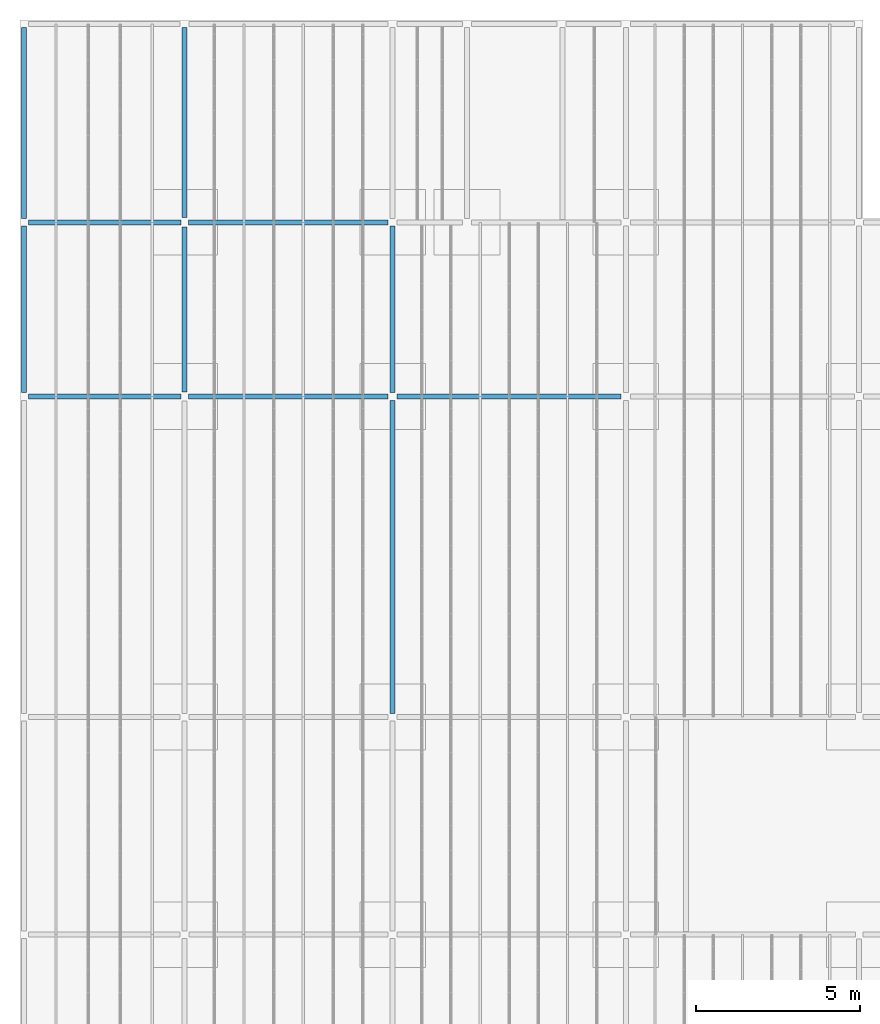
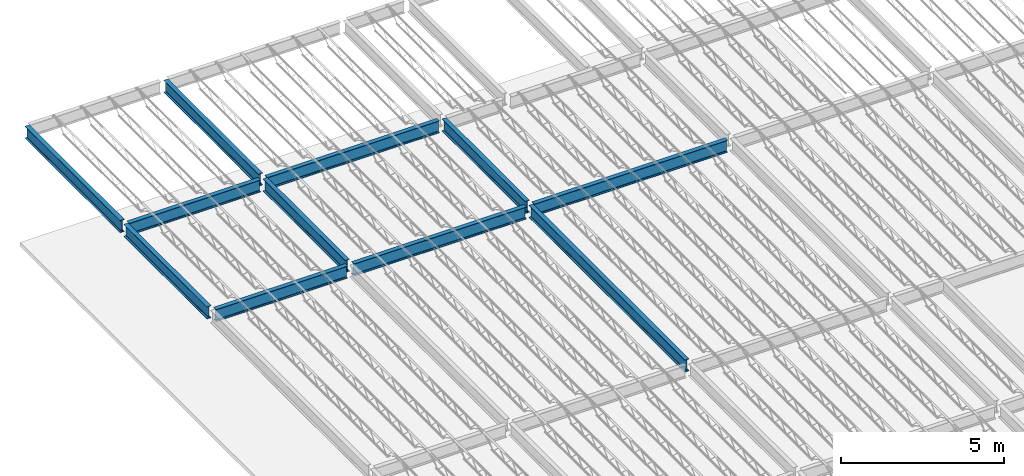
# One storey, part 9 of 75: 11 beams.
"""IFC2X3 building model written with IfcOpenShell, lengths in metres."""

from ifc_helpers import new_model, entity, si_unit, converted_unit, frame, frame_2d, origin, place, context, project, spatial, polyline, circle_curve, parameter, trimmed, segment, composite_curve, outline, extrude, material, element, save


model = new_model("IFC2X3")

# Units and contexts
model_context = context("Model", 3, precision=1e-09, world=origin())
plan_context = context("Plan", 3, precision=1e-09, world=origin())
ifc_project = project(units=[si_unit("LENGTHUNIT", "METRE"), si_unit("AREAUNIT", "SQUARE_METRE"), si_unit("VOLUMEUNIT", "CUBIC_METRE"), converted_unit("PLANEANGLEUNIT", "DEGREE", entity("IfcRatioMeasure", 0.01745329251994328), si_unit("PLANEANGLEUNIT", "RADIAN"), dimensions=[0, 0, 0, 0, 0, 0, 0]), si_unit("TIMEUNIT", "SECOND")], contexts=[model_context, plan_context])

# Site, building, storey
site_placement = place(None, origin())
site = spatial("IfcSite", under=ifc_project, at=site_placement, Name="Default", CompositionType="ELEMENT")
building_placement = place(site_placement, origin())
building = spatial("IfcBuilding", under=site, at=building_placement, CompositionType="ELEMENT")
storey_placement = place(building_placement, origin())
storey = spatial("IfcBuildingStorey", under=building, at=storey_placement, Name="First Floor", CompositionType="ELEMENT", Elevation=-3.531500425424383e-13)

# Beams
ifc_material = material(Name="Metal - Steel - 345 MPa")
beam_1_placement = place(storey_placement, frame((-51.90279412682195, 50.09000000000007, 4.404500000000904), z_axis=(0.0, 0.0, 1.0), x_axis=(0.0, -1.0, 0.0)))
element("IfcBeam", 1, at=beam_1_placement, inside=storey, material=ifc_material, Name="M_W-Wide Flange:W460X60:W460X60", ObjectType="M_W-Wide Flange:W460X60", context=model_context, shape_type="SweptSolid", body=[
    extrude(outline(composite_curve([segment(polyline([(-0.07649999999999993, -0.2142000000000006), (-0.07649999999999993, -0.2275000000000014)]), True, "CONTINUOUS"), segment(polyline([(-0.07649999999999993, -0.2275000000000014), (0.07649999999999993, -0.2275000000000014)]), True, "CONTINUOUS"), segment(polyline([(0.07649999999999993, -0.2275000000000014), (0.07649999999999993, -0.2142000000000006)]), True, "CONTINUOUS"), segment(polyline([(0.07649999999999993, -0.2142000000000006), (0.02170000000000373, -0.2142000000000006)]), True, "CONTINUOUS"), segment(trimmed(circle_curve(frame_2d((0.02170000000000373, -0.1965000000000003), x_axis=(1.0, 0.0)), 0.0177), [parameter(180.0)], [parameter(269.9999999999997)], True, "PARAMETER"), False, "CONTINUOUS"), segment(polyline([(0.003999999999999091, -0.1965000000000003), (0.003999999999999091, 0.1964999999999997)]), True, "CONTINUOUS"), segment(trimmed(circle_curve(frame_2d((0.02170000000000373, 0.1964999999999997), x_axis=(1.0, 0.0)), 0.0177), [parameter(90.00000000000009)], [parameter(179.9999999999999)], True, "PARAMETER"), False, "CONTINUOUS"), segment(polyline([(0.02170000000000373, 0.2141999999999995), (0.07649999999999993, 0.2141999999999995)]), True, "CONTINUOUS"), segment(polyline([(0.07649999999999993, 0.2141999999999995), (0.07649999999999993, 0.2274999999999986)]), True, "CONTINUOUS"), segment(polyline([(0.07649999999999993, 0.2274999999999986), (-0.07649999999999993, 0.2274999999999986)]), True, "CONTINUOUS"), segment(polyline([(-0.07649999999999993, 0.2274999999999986), (-0.07649999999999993, 0.2141999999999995)]), True, "CONTINUOUS"), segment(polyline([(-0.07649999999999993, 0.2141999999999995), (-0.02170000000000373, 0.2141999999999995)]), True, "CONTINUOUS"), segment(trimmed(circle_curve(frame_2d((-0.02169999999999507, 0.1964999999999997), x_axis=(1.0, 0.0)), 0.0177), [parameter(359.9999999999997)], [parameter(89.99999999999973)], True, "PARAMETER"), False, "CONTINUOUS"), segment(polyline([(-0.003999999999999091, 0.1964999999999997), (-0.003999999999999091, -0.1965000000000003)]), True, "CONTINUOUS"), segment(trimmed(circle_curve(frame_2d((-0.02169999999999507, -0.1965000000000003), x_axis=(1.0, 0.0)), 0.0177), [parameter(269.9999999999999)], [parameter(0.0)], True, "PARAMETER"), False, "CONTINUOUS"), segment(polyline([(-0.02170000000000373, -0.2142000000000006), (-0.07649999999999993, -0.2142000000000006)]), True, "CONTINUOUS")], self_intersect=False)), frame((0.0, 0.1439941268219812, -0.2275000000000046), z_axis=(0.0, -1.0, 0.0), x_axis=(1.0, 0.0, 0.0)), (0.0, 0.0, -1.0), 4.644100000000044),
])
beam_2_placement = place(storey_placement, frame((-47.00215974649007, 50.09000000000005, 4.404500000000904), z_axis=(0.0, 0.0, 1.0), x_axis=(0.0, -1.0, 0.0)))
element("IfcBeam", 2, at=beam_2_placement, inside=storey, material=ifc_material, Name="M_W-Wide Flange:W460X60:W460X60", ObjectType="M_W-Wide Flange:W460X60", context=model_context, shape_type="SweptSolid", body=[
    extrude(outline(composite_curve([segment(polyline([(-0.07650000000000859, -0.2142000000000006), (-0.07650000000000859, -0.2275000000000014)]), True, "CONTINUOUS"), segment(polyline([(-0.07650000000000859, -0.2275000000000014), (0.07649999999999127, -0.2275000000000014)]), True, "CONTINUOUS"), segment(polyline([(0.07649999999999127, -0.2275000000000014), (0.07649999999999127, -0.2142000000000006)]), True, "CONTINUOUS"), segment(polyline([(0.07649999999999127, -0.2142000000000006), (0.02169999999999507, -0.2142000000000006)]), True, "CONTINUOUS"), segment(trimmed(circle_curve(frame_2d((0.02169999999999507, -0.1965000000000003), x_axis=(0.0, -1.0)), 0.0177), [parameter(269.9999999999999)], [parameter(359.9999999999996)], True, "PARAMETER"), False, "CONTINUOUS"), segment(polyline([(0.003999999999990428, -0.1965000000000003), (0.003999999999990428, 0.1964999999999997)]), True, "CONTINUOUS"), segment(trimmed(circle_curve(frame_2d((0.02169999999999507, 0.1964999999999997), x_axis=(-1.0, 0.0)), 0.0177), [parameter(269.9999999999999)], [parameter(359.9999999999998)], True, "PARAMETER"), False, "CONTINUOUS"), segment(polyline([(0.02169999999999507, 0.2141999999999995), (0.07649999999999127, 0.2141999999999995)]), True, "CONTINUOUS"), segment(polyline([(0.07649999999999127, 0.2141999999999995), (0.07649999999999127, 0.2274999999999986)]), True, "CONTINUOUS"), segment(polyline([(0.07649999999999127, 0.2274999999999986), (-0.07650000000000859, 0.2274999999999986)]), True, "CONTINUOUS"), segment(polyline([(-0.07650000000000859, 0.2274999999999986), (-0.07650000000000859, 0.2141999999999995)]), True, "CONTINUOUS"), segment(polyline([(-0.07650000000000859, 0.2141999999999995), (-0.02170000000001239, 0.2141999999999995)]), True, "CONTINUOUS"), segment(trimmed(circle_curve(frame_2d((-0.02170000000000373, 0.1964999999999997), x_axis=(0.0, 1.0)), 0.0177), [parameter(269.9999999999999)], [parameter(359.9999999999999)], True, "PARAMETER"), False, "CONTINUOUS"), segment(polyline([(-0.004000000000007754, 0.1964999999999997), (-0.004000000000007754, -0.1965000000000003)]), True, "CONTINUOUS"), segment(trimmed(circle_curve(frame_2d((-0.02170000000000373, -0.1965000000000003), x_axis=(1.0, 0.0)), 0.0177), [parameter(269.9999999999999)], [parameter(5.088887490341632e-14)], True, "PARAMETER"), False, "CONTINUOUS"), segment(polyline([(-0.02170000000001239, -0.2142000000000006), (-0.07650000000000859, -0.2142000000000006)]), True, "CONTINUOUS")], self_intersect=False)), frame((0.0, 0.1168597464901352, -0.2275000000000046), z_axis=(0.0, -1.0, 0.0), x_axis=(1.0, 0.0, 0.0)), (0.0, 0.0, -1.0), 6.084099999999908),
])
beam_3_placement = place(storey_placement, frame((-47.00215974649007, 44.78000000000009, 4.404500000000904), z_axis=(0.0, 0.0, 1.0), x_axis=(0.0, -1.0, 0.0)))
element("IfcBeam", 3, at=beam_3_placement, inside=storey, material=ifc_material, Name="M_W-Wide Flange:W460X60:W460X60", ObjectType="M_W-Wide Flange:W460X60", context=model_context, shape_type="SweptSolid", body=[
    extrude(outline(composite_curve([segment(polyline([(-0.07649999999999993, -0.2142000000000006), (-0.07649999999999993, -0.2275000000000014)]), True, "CONTINUOUS"), segment(polyline([(-0.07649999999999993, -0.2275000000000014), (0.07649999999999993, -0.2275000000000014)]), True, "CONTINUOUS"), segment(polyline([(0.07649999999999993, -0.2275000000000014), (0.07649999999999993, -0.2142000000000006)]), True, "CONTINUOUS"), segment(polyline([(0.07649999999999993, -0.2142000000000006), (0.02170000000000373, -0.2142000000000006)]), True, "CONTINUOUS"), segment(trimmed(circle_curve(frame_2d((0.02170000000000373, -0.1965000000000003), x_axis=(0.0, -1.0)), 0.0177), [parameter(269.9999999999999)], [parameter(359.9999999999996)], True, "PARAMETER"), False, "CONTINUOUS"), segment(polyline([(0.003999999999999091, -0.1965000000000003), (0.003999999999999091, 0.1964999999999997)]), True, "CONTINUOUS"), segment(trimmed(circle_curve(frame_2d((0.02170000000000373, 0.1964999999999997), x_axis=(-1.0, 0.0)), 0.0177), [parameter(269.9999999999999)], [parameter(359.9999999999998)], True, "PARAMETER"), False, "CONTINUOUS"), segment(polyline([(0.02170000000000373, 0.2141999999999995), (0.07649999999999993, 0.2141999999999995)]), True, "CONTINUOUS"), segment(polyline([(0.07649999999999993, 0.2141999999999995), (0.07649999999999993, 0.2274999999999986)]), True, "CONTINUOUS"), segment(polyline([(0.07649999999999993, 0.2274999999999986), (-0.07649999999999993, 0.2274999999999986)]), True, "CONTINUOUS"), segment(polyline([(-0.07649999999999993, 0.2274999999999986), (-0.07649999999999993, 0.2141999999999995)]), True, "CONTINUOUS"), segment(polyline([(-0.07649999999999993, 0.2141999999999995), (-0.02170000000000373, 0.2141999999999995)]), True, "CONTINUOUS"), segment(trimmed(circle_curve(frame_2d((-0.02169999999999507, 0.1964999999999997), x_axis=(0.0, 1.0)), 0.0177), [parameter(269.9999999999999)], [parameter(359.9999999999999)], True, "PARAMETER"), False, "CONTINUOUS"), segment(polyline([(-0.003999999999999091, 0.1964999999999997), (-0.003999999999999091, -0.1965000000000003)]), True, "CONTINUOUS"), segment(trimmed(circle_curve(frame_2d((-0.02169999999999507, -0.1965000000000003), x_axis=(1.0, 0.0)), 0.0177), [parameter(269.9999999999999)], [parameter(5.088887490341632e-14)], True, "PARAMETER"), False, "CONTINUOUS"), segment(polyline([(-0.02170000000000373, -0.2142000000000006), (-0.07649999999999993, -0.2142000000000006)]), True, "CONTINUOUS")], self_intersect=False)), frame((0.0, 0.1168597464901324, -0.2275000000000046), z_axis=(0.0, -1.0, 0.0), x_axis=(1.0, 0.0, 0.0)), (0.0, 0.0, -1.0), 6.084099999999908),
])
beam_4_placement = place(storey_placement, frame((-51.90279412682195, 44.7800000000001, 4.404500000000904), z_axis=(0.0, 0.0, 1.0), x_axis=(0.0, -1.0, 0.0)))
element("IfcBeam", 4, at=beam_4_placement, inside=storey, material=ifc_material, Name="M_W-Wide Flange:W460X60:W460X60", ObjectType="M_W-Wide Flange:W460X60", context=model_context, shape_type="SweptSolid", body=[
    extrude(outline(composite_curve([segment(polyline([(-0.07649999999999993, -0.2142000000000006), (-0.07649999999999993, -0.2275000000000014)]), True, "CONTINUOUS"), segment(polyline([(-0.07649999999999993, -0.2275000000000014), (0.07649999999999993, -0.2275000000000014)]), True, "CONTINUOUS"), segment(polyline([(0.07649999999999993, -0.2275000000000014), (0.07649999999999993, -0.2142000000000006)]), True, "CONTINUOUS"), segment(polyline([(0.07649999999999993, -0.2142000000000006), (0.02170000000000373, -0.2142000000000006)]), True, "CONTINUOUS"), segment(trimmed(circle_curve(frame_2d((0.02170000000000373, -0.1965000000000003), x_axis=(1.0, 0.0)), 0.0177), [parameter(180.0)], [parameter(269.9999999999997)], True, "PARAMETER"), False, "CONTINUOUS"), segment(polyline([(0.003999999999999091, -0.1965000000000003), (0.003999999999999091, 0.1964999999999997)]), True, "CONTINUOUS"), segment(trimmed(circle_curve(frame_2d((0.02170000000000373, 0.1964999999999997), x_axis=(1.0, 0.0)), 0.0177), [parameter(90.00000000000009)], [parameter(179.9999999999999)], True, "PARAMETER"), False, "CONTINUOUS"), segment(polyline([(0.02170000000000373, 0.2141999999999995), (0.07649999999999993, 0.2141999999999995)]), True, "CONTINUOUS"), segment(polyline([(0.07649999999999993, 0.2141999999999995), (0.07649999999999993, 0.2274999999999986)]), True, "CONTINUOUS"), segment(polyline([(0.07649999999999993, 0.2274999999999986), (-0.07649999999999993, 0.2274999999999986)]), True, "CONTINUOUS"), segment(polyline([(-0.07649999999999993, 0.2274999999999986), (-0.07649999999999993, 0.2141999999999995)]), True, "CONTINUOUS"), segment(polyline([(-0.07649999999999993, 0.2141999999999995), (-0.02170000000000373, 0.2141999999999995)]), True, "CONTINUOUS"), segment(trimmed(circle_curve(frame_2d((-0.02169999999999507, 0.1964999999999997), x_axis=(1.0, 0.0)), 0.0177), [parameter(359.9999999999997)], [parameter(89.99999999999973)], True, "PARAMETER"), False, "CONTINUOUS"), segment(polyline([(-0.003999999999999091, 0.1964999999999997), (-0.003999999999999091, -0.1965000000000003)]), True, "CONTINUOUS"), segment(trimmed(circle_curve(frame_2d((-0.02169999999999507, -0.1965000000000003), x_axis=(1.0, 0.0)), 0.0177), [parameter(269.9999999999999)], [parameter(0.0)], True, "PARAMETER"), False, "CONTINUOUS"), segment(polyline([(-0.02170000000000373, -0.2142000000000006), (-0.07649999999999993, -0.2142000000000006)]), True, "CONTINUOUS")], self_intersect=False)), frame((0.0, 0.143994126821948, -0.2275000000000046), z_axis=(0.0, -1.0, 0.0), x_axis=(1.0, 0.0, 0.0)), (0.0, 0.0, -1.0), 4.644100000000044),
])
beam_5_placement = place(storey_placement, frame((-40.66192591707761, 44.78000000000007, 4.404500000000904), z_axis=(0.0, 0.0, 1.0), x_axis=(0.0, -1.0, 0.0)))
element("IfcBeam", 5, at=beam_5_placement, inside=storey, material=ifc_material, Name="M_W-Wide Flange:W460X60:W460X60", ObjectType="M_W-Wide Flange:W460X60", context=model_context, shape_type="SweptSolid", body=[
    extrude(outline(composite_curve([segment(polyline([(-0.07649999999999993, -0.2142000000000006), (-0.07649999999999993, -0.2275000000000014)]), True, "CONTINUOUS"), segment(polyline([(-0.07649999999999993, -0.2275000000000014), (0.07649999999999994, -0.2275000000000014)]), True, "CONTINUOUS"), segment(polyline([(0.07649999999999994, -0.2275000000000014), (0.07649999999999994, -0.2142000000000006)]), True, "CONTINUOUS"), segment(polyline([(0.07649999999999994, -0.2142000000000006), (0.02170000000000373, -0.2142000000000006)]), True, "CONTINUOUS"), segment(trimmed(circle_curve(frame_2d((0.02169999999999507, -0.1965000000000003), x_axis=(0.0, -1.0)), 0.0177), [parameter(269.9999999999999)], [parameter(359.9999999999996)], True, "PARAMETER"), False, "CONTINUOUS"), segment(polyline([(0.00399999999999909, -0.1965000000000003), (0.00399999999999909, 0.1964999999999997)]), True, "CONTINUOUS"), segment(trimmed(circle_curve(frame_2d((0.02169999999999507, 0.1964999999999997), x_axis=(-1.0, 0.0)), 0.0177), [parameter(269.9999999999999)], [parameter(359.9999999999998)], True, "PARAMETER"), False, "CONTINUOUS"), segment(polyline([(0.02170000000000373, 0.2141999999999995), (0.07649999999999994, 0.2141999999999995)]), True, "CONTINUOUS"), segment(polyline([(0.07649999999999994, 0.2141999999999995), (0.07649999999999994, 0.2274999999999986)]), True, "CONTINUOUS"), segment(polyline([(0.07649999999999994, 0.2274999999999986), (-0.07649999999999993, 0.2274999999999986)]), True, "CONTINUOUS"), segment(polyline([(-0.07649999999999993, 0.2274999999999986), (-0.07649999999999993, 0.2141999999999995)]), True, "CONTINUOUS"), segment(polyline([(-0.07649999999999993, 0.2141999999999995), (-0.02170000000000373, 0.2141999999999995)]), True, "CONTINUOUS"), segment(trimmed(circle_curve(frame_2d((-0.02170000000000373, 0.1964999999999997), x_axis=(0.0, 1.0)), 0.0177), [parameter(269.9999999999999)], [parameter(359.9999999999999)], True, "PARAMETER"), False, "CONTINUOUS"), segment(polyline([(-0.003999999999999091, 0.1964999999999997), (-0.003999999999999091, -0.1965000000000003)]), True, "CONTINUOUS"), segment(trimmed(circle_curve(frame_2d((-0.02170000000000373, -0.1965000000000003), x_axis=(1.0, 0.0)), 0.0177), [parameter(269.9999999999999)], [parameter(5.088887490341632e-14)], True, "PARAMETER"), False, "CONTINUOUS"), segment(polyline([(-0.02170000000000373, -0.2142000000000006), (-0.07649999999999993, -0.2142000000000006)]), True, "CONTINUOUS")], self_intersect=False)), frame((0.0, 0.1431259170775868, -0.2275000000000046), z_axis=(0.0, -1.0, 0.0), x_axis=(1.0, 0.0, 0.0)), (0.0, 0.0, -1.0), 6.827600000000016),
])
beam_6_placement = place(storey_placement, frame((-40.66000000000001, 44.78140165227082, 4.46800000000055), z_axis=(0.0, 0.0, 1.0), x_axis=(-1.0, 0.0, 0.0)))
element("IfcBeam", 6, at=beam_6_placement, inside=storey, material=ifc_material, Name="M_W-Wide Flange:W460X60:W460X60", ObjectType="M_W-Wide Flange:W460X60", context=model_context, shape_type="SweptSolid", body=[
    extrude(outline(composite_curve([segment(polyline([(0.2141999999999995, -0.0765000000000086), (0.2275000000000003, -0.0765000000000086)]), True, "CONTINUOUS"), segment(polyline([(0.2275000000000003, -0.0765000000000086), (0.2275000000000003, 0.07649999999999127)]), True, "CONTINUOUS"), segment(polyline([(0.2275000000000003, 0.07649999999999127), (0.2141999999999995, 0.07649999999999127)]), True, "CONTINUOUS"), segment(polyline([(0.2141999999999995, 0.07649999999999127), (0.2141999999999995, 0.02169999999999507)]), True, "CONTINUOUS"), segment(trimmed(circle_curve(frame_2d((0.1964999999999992, 0.02169999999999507), x_axis=(1.0, 0.0)), 0.0177), [parameter(269.9999999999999)], [parameter(359.9999999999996)], True, "PARAMETER"), False, "CONTINUOUS"), segment(polyline([(0.1964999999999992, 0.003999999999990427), (-0.1965000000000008, 0.003999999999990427)]), True, "CONTINUOUS"), segment(trimmed(circle_curve(frame_2d((-0.1965000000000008, 0.02169999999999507), x_axis=(0.0, -1.0)), 0.0177), [parameter(269.9999999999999)], [parameter(359.9999999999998)], True, "PARAMETER"), False, "CONTINUOUS"), segment(polyline([(-0.2142000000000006, 0.02169999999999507), (-0.2142000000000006, 0.07649999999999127)]), True, "CONTINUOUS"), segment(polyline([(-0.2142000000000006, 0.07649999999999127), (-0.2274999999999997, 0.07649999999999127)]), True, "CONTINUOUS"), segment(polyline([(-0.2274999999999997, 0.07649999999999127), (-0.2274999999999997, -0.0765000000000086)]), True, "CONTINUOUS"), segment(polyline([(-0.2274999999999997, -0.0765000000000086), (-0.2142000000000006, -0.0765000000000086)]), True, "CONTINUOUS"), segment(polyline([(-0.2142000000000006, -0.0765000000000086), (-0.2142000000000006, -0.02170000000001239)]), True, "CONTINUOUS"), segment(trimmed(circle_curve(frame_2d((-0.1965000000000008, -0.02170000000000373), x_axis=(-1.0, 0.0)), 0.0177), [parameter(269.9999999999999)], [parameter(359.9999999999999)], True, "PARAMETER"), False, "CONTINUOUS"), segment(polyline([(-0.1965000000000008, -0.004000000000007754), (0.1964999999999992, -0.004000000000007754)]), True, "CONTINUOUS"), segment(trimmed(circle_curve(frame_2d((0.1964999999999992, -0.02170000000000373), x_axis=(0.0, 1.0)), 0.0177), [parameter(269.9999999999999)], [parameter(5.088887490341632e-14)], True, "PARAMETER"), False, "CONTINUOUS"), segment(polyline([(0.2141999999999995, -0.02170000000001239), (0.2141999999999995, -0.0765000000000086)]), True, "CONTINUOUS")], self_intersect=False)), frame((0.0, 9.65670165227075, -0.2275000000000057), z_axis=(0.0, -1.0, 0.0), x_axis=(0.0, 0.0, -1.0)), (0.0, 0.0, 1.0), 9.540600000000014),
])
beam_7_placement = place(storey_placement, frame((-40.66, 50.09257849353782, 4.468000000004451), z_axis=(0.0, 0.0, 1.0), x_axis=(-1.0, 0.0, 0.0)))
element("IfcBeam", 7, at=beam_7_placement, inside=storey, material=ifc_material, Name="M_W-Wide Flange:W460X60:W460X60", ObjectType="M_W-Wide Flange:W460X60", context=model_context, shape_type="SweptSolid", body=[
    extrude(outline(composite_curve([segment(polyline([(0.2142000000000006, -0.07649999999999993), (0.2275000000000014, -0.07649999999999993)]), True, "CONTINUOUS"), segment(polyline([(0.2275000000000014, -0.07649999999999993), (0.2275000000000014, 0.07649999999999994)]), True, "CONTINUOUS"), segment(polyline([(0.2275000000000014, 0.07649999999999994), (0.2142000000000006, 0.07649999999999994)]), True, "CONTINUOUS"), segment(polyline([(0.2142000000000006, 0.07649999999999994), (0.2142000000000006, 0.02170000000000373)]), True, "CONTINUOUS"), segment(trimmed(circle_curve(frame_2d((0.1965000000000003, 0.02170000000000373), x_axis=(1.0, 0.0)), 0.0177), [parameter(269.9999999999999)], [parameter(359.9999999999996)], True, "PARAMETER"), False, "CONTINUOUS"), segment(polyline([(0.1965000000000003, 0.003999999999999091), (-0.1964999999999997, 0.003999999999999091)]), True, "CONTINUOUS"), segment(trimmed(circle_curve(frame_2d((-0.1964999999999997, 0.02170000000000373), x_axis=(0.0, -1.0)), 0.0177), [parameter(269.9999999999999)], [parameter(359.9999999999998)], True, "PARAMETER"), False, "CONTINUOUS"), segment(polyline([(-0.2141999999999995, 0.02170000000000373), (-0.2141999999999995, 0.07649999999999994)]), True, "CONTINUOUS"), segment(polyline([(-0.2141999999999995, 0.07649999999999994), (-0.2274999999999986, 0.07649999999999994)]), True, "CONTINUOUS"), segment(polyline([(-0.2274999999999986, 0.07649999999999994), (-0.2274999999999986, -0.07649999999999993)]), True, "CONTINUOUS"), segment(polyline([(-0.2274999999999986, -0.07649999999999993), (-0.2141999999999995, -0.07649999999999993)]), True, "CONTINUOUS"), segment(polyline([(-0.2141999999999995, -0.07649999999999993), (-0.2141999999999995, -0.02170000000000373)]), True, "CONTINUOUS"), segment(trimmed(circle_curve(frame_2d((-0.1964999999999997, -0.02169999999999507), x_axis=(-1.0, 0.0)), 0.0177), [parameter(269.9999999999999)], [parameter(359.9999999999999)], True, "PARAMETER"), False, "CONTINUOUS"), segment(polyline([(-0.1964999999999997, -0.00399999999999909), (0.1965000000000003, -0.00399999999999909)]), True, "CONTINUOUS"), segment(trimmed(circle_curve(frame_2d((0.1965000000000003, -0.02169999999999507), x_axis=(0.0, 1.0)), 0.0177), [parameter(269.9999999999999)], [parameter(5.088887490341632e-14)], True, "PARAMETER"), False, "CONTINUOUS"), segment(polyline([(0.2142000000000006, -0.02170000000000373), (0.2142000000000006, -0.07649999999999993)]), True, "CONTINUOUS")], self_intersect=False)), frame((0.0, 5.197878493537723, -0.2275000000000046), z_axis=(0.0, -1.0, 0.0), x_axis=(0.0, 0.0, -1.0)), (0.0, 0.0, 1.0), 5.080599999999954),
])
beam_8_placement = place(storey_placement, frame((-47.0, 44.77742150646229, 4.468000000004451)))
element("IfcBeam", 8, at=beam_8_placement, inside=storey, material=ifc_material, Name="M_W-Wide Flange:W460X60:W460X60", ObjectType="M_W-Wide Flange:W460X60", context=model_context, shape_type="SweptSolid", body=[
    extrude(outline(composite_curve([segment(polyline([(-0.07649999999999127, -0.2142000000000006), (-0.07649999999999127, -0.2275000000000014)]), True, "CONTINUOUS"), segment(polyline([(-0.07649999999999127, -0.2275000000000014), (0.0765000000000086, -0.2275000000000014)]), True, "CONTINUOUS"), segment(polyline([(0.0765000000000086, -0.2275000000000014), (0.0765000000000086, -0.2142000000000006)]), True, "CONTINUOUS"), segment(polyline([(0.0765000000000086, -0.2142000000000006), (0.02170000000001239, -0.2142000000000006)]), True, "CONTINUOUS"), segment(trimmed(circle_curve(frame_2d((0.02170000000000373, -0.1965000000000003), x_axis=(0.0, -1.0)), 0.0177), [parameter(269.9999999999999)], [parameter(359.9999999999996)], True, "PARAMETER"), False, "CONTINUOUS"), segment(polyline([(0.004000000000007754, -0.1965000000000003), (0.004000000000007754, 0.1964999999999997)]), True, "CONTINUOUS"), segment(trimmed(circle_curve(frame_2d((0.02170000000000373, 0.1964999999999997), x_axis=(-1.0, 0.0)), 0.0177), [parameter(269.9999999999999)], [parameter(359.9999999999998)], True, "PARAMETER"), False, "CONTINUOUS"), segment(polyline([(0.02170000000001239, 0.2141999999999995), (0.0765000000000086, 0.2141999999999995)]), True, "CONTINUOUS"), segment(polyline([(0.0765000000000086, 0.2141999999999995), (0.0765000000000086, 0.2274999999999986)]), True, "CONTINUOUS"), segment(polyline([(0.0765000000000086, 0.2274999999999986), (-0.07649999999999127, 0.2274999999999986)]), True, "CONTINUOUS"), segment(polyline([(-0.07649999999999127, 0.2274999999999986), (-0.07649999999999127, 0.2141999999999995)]), True, "CONTINUOUS"), segment(polyline([(-0.07649999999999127, 0.2141999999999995), (-0.02169999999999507, 0.2141999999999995)]), True, "CONTINUOUS"), segment(trimmed(circle_curve(frame_2d((-0.02169999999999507, 0.1964999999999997), x_axis=(0.0, 1.0)), 0.0177), [parameter(269.9999999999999)], [parameter(359.9999999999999)], True, "PARAMETER"), False, "CONTINUOUS"), segment(polyline([(-0.003999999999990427, 0.1964999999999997), (-0.003999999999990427, -0.1965000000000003)]), True, "CONTINUOUS"), segment(trimmed(circle_curve(frame_2d((-0.02169999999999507, -0.1965000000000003), x_axis=(1.0, 0.0)), 0.0177), [parameter(269.9999999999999)], [parameter(5.088887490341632e-14)], True, "PARAMETER"), False, "CONTINUOUS"), segment(polyline([(-0.02169999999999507, -0.2142000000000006), (-0.07649999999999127, -0.2142000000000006)]), True, "CONTINUOUS")], self_intersect=False)), frame((0.0, 0.1437784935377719, -0.2275000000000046), z_axis=(0.0, -1.0, 0.0), x_axis=(1.0, 0.0, 0.0)), (0.0, 0.0, -1.0), 5.027600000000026),
])
beam_9_placement = place(storey_placement, frame((-51.89999999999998, 56.14226323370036, 4.46800000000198), z_axis=(0.0, 0.0, 1.0), x_axis=(-1.0, 0.0, 0.0)))
element("IfcBeam", 9, at=beam_9_placement, inside=storey, material=ifc_material, Name="M_W-Wide Flange:W460X60:W460X60", ObjectType="M_W-Wide Flange:W460X60", context=model_context, shape_type="SweptSolid", body=[
    extrude(outline(composite_curve([segment(polyline([(0.2141999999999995, -0.07649999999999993), (0.2275000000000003, -0.07649999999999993)]), True, "CONTINUOUS"), segment(polyline([(0.2275000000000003, -0.07649999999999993), (0.2275000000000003, 0.07649999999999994)]), True, "CONTINUOUS"), segment(polyline([(0.2275000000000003, 0.07649999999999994), (0.2141999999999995, 0.07649999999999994)]), True, "CONTINUOUS"), segment(polyline([(0.2141999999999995, 0.07649999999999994), (0.2141999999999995, 0.02170000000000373)]), True, "CONTINUOUS"), segment(trimmed(circle_curve(frame_2d((0.1964999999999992, 0.02170000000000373), x_axis=(0.0, 1.0)), 0.0177), [parameter(180.0)], [parameter(269.9999999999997)], True, "PARAMETER"), False, "CONTINUOUS"), segment(polyline([(0.1964999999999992, 0.003999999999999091), (-0.1965000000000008, 0.003999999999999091)]), True, "CONTINUOUS"), segment(trimmed(circle_curve(frame_2d((-0.1965000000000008, 0.02170000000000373), x_axis=(0.0, 1.0)), 0.0177), [parameter(90.00000000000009)], [parameter(179.9999999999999)], True, "PARAMETER"), False, "CONTINUOUS"), segment(polyline([(-0.2142000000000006, 0.02170000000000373), (-0.2142000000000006, 0.07649999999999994)]), True, "CONTINUOUS"), segment(polyline([(-0.2142000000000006, 0.07649999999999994), (-0.2274999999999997, 0.07649999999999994)]), True, "CONTINUOUS"), segment(polyline([(-0.2274999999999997, 0.07649999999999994), (-0.2274999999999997, -0.07649999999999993)]), True, "CONTINUOUS"), segment(polyline([(-0.2274999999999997, -0.07649999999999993), (-0.2142000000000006, -0.07649999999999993)]), True, "CONTINUOUS"), segment(polyline([(-0.2142000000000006, -0.07649999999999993), (-0.2142000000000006, -0.02170000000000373)]), True, "CONTINUOUS"), segment(trimmed(circle_curve(frame_2d((-0.1965000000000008, -0.02169999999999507), x_axis=(0.0, 1.0)), 0.0177), [parameter(359.9999999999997)], [parameter(89.99999999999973)], True, "PARAMETER"), False, "CONTINUOUS"), segment(polyline([(-0.1965000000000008, -0.00399999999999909), (0.1964999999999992, -0.00399999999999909)]), True, "CONTINUOUS"), segment(trimmed(circle_curve(frame_2d((0.1964999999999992, -0.02169999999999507), x_axis=(0.0, 1.0)), 0.0177), [parameter(269.9999999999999)], [parameter(0.0)], True, "PARAMETER"), False, "CONTINUOUS"), segment(polyline([(0.2141999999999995, -0.02170000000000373), (0.2141999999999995, -0.07649999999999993)]), True, "CONTINUOUS")], self_intersect=False)), frame((0.0, 5.937563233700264, -0.2275000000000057), z_axis=(0.0, -1.0, 0.0), x_axis=(0.0, 0.0, -1.0)), (0.0, 0.0, 1.0), 5.820600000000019),
])
beam_10_placement = place(storey_placement, frame((-47.0, 50.08773676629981, 4.46800000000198)))
element("IfcBeam", 10, at=beam_10_placement, inside=storey, material=ifc_material, Name="M_W-Wide Flange:W460X60:W460X60", ObjectType="M_W-Wide Flange:W460X60", context=model_context, shape_type="SweptSolid", body=[
    extrude(outline(composite_curve([segment(polyline([(-0.07649999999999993, -0.2142), (-0.07649999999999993, -0.2275000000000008)]), True, "CONTINUOUS"), segment(polyline([(-0.07649999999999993, -0.2275000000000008), (0.07649999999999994, -0.2275000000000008)]), True, "CONTINUOUS"), segment(polyline([(0.07649999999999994, -0.2275000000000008), (0.07649999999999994, -0.2142)]), True, "CONTINUOUS"), segment(polyline([(0.07649999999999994, -0.2142), (0.02170000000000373, -0.2142)]), True, "CONTINUOUS"), segment(trimmed(circle_curve(frame_2d((0.02169999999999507, -0.1964999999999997), x_axis=(1.0, 0.0)), 0.0177), [parameter(180.0)], [parameter(269.9999999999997)], True, "PARAMETER"), False, "CONTINUOUS"), segment(polyline([(0.00399999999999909, -0.1964999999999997), (0.00399999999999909, 0.1965000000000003)]), True, "CONTINUOUS"), segment(trimmed(circle_curve(frame_2d((0.02169999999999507, 0.1965000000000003), x_axis=(1.0, 0.0)), 0.0177), [parameter(90.00000000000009)], [parameter(179.9999999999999)], True, "PARAMETER"), False, "CONTINUOUS"), segment(polyline([(0.02170000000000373, 0.2142000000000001), (0.07649999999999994, 0.2142000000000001)]), True, "CONTINUOUS"), segment(polyline([(0.07649999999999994, 0.2142000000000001), (0.07649999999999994, 0.2274999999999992)]), True, "CONTINUOUS"), segment(polyline([(0.07649999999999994, 0.2274999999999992), (-0.07649999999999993, 0.2274999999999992)]), True, "CONTINUOUS"), segment(polyline([(-0.07649999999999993, 0.2274999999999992), (-0.07649999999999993, 0.2142000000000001)]), True, "CONTINUOUS"), segment(polyline([(-0.07649999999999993, 0.2142000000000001), (-0.02170000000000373, 0.2142000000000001)]), True, "CONTINUOUS"), segment(trimmed(circle_curve(frame_2d((-0.02170000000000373, 0.1965000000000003), x_axis=(1.0, 0.0)), 0.0177), [parameter(359.9999999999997)], [parameter(89.99999999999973)], True, "PARAMETER"), False, "CONTINUOUS"), segment(polyline([(-0.003999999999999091, 0.1965000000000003), (-0.003999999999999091, -0.1964999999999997)]), True, "CONTINUOUS"), segment(trimmed(circle_curve(frame_2d((-0.02170000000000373, -0.1964999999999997), x_axis=(1.0, 0.0)), 0.0177), [parameter(269.9999999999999)], [parameter(0.0)], True, "PARAMETER"), False, "CONTINUOUS"), segment(polyline([(-0.02170000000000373, -0.2142), (-0.07649999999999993, -0.2142)]), True, "CONTINUOUS")], self_intersect=False)), frame((0.0, 0.143463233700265, -0.2275000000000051), z_axis=(0.0, -1.0, 0.0), x_axis=(1.0, 0.0, 0.0)), (0.0, 0.0, -1.0), 5.794100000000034),
])
beam_11_placement = place(storey_placement, frame((-51.89999999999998, 50.09257849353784, 4.468000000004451), z_axis=(0.0, 0.0, 1.0), x_axis=(-1.0, 0.0, 0.0)))
element("IfcBeam", 11, at=beam_11_placement, inside=storey, material=ifc_material, Name="M_W-Wide Flange:W460X60:W460X60", ObjectType="M_W-Wide Flange:W460X60", context=model_context, shape_type="SweptSolid", body=[
    extrude(outline(composite_curve([segment(polyline([(0.2142000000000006, -0.07649999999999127), (0.2275000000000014, -0.07649999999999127)]), True, "CONTINUOUS"), segment(polyline([(0.2275000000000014, -0.07649999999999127), (0.2275000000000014, 0.0765000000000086)]), True, "CONTINUOUS"), segment(polyline([(0.2275000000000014, 0.0765000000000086), (0.2142000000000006, 0.0765000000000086)]), True, "CONTINUOUS"), segment(polyline([(0.2142000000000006, 0.0765000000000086), (0.2142000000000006, 0.02170000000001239)]), True, "CONTINUOUS"), segment(trimmed(circle_curve(frame_2d((0.1965000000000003, 0.02170000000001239), x_axis=(1.0, 0.0)), 0.0177), [parameter(269.9999999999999)], [parameter(359.9999999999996)], True, "PARAMETER"), False, "CONTINUOUS"), segment(polyline([(0.1965000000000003, 0.004000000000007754), (-0.1964999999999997, 0.004000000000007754)]), True, "CONTINUOUS"), segment(trimmed(circle_curve(frame_2d((-0.1964999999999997, 0.02170000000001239), x_axis=(0.0, -1.0)), 0.0177), [parameter(269.9999999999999)], [parameter(359.9999999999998)], True, "PARAMETER"), False, "CONTINUOUS"), segment(polyline([(-0.2141999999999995, 0.02170000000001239), (-0.2141999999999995, 0.0765000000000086)]), True, "CONTINUOUS"), segment(polyline([(-0.2141999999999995, 0.0765000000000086), (-0.2274999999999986, 0.0765000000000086)]), True, "CONTINUOUS"), segment(polyline([(-0.2274999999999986, 0.0765000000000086), (-0.2274999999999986, -0.07649999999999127)]), True, "CONTINUOUS"), segment(polyline([(-0.2274999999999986, -0.07649999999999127), (-0.2141999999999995, -0.07649999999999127)]), True, "CONTINUOUS"), segment(polyline([(-0.2141999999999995, -0.07649999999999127), (-0.2141999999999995, -0.02169999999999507)]), True, "CONTINUOUS"), segment(trimmed(circle_curve(frame_2d((-0.1964999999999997, -0.02169999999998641), x_axis=(-1.0, 0.0)), 0.0177), [parameter(269.9999999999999)], [parameter(359.9999999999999)], True, "PARAMETER"), False, "CONTINUOUS"), segment(polyline([(-0.1964999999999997, -0.003999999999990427), (0.1965000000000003, -0.003999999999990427)]), True, "CONTINUOUS"), segment(trimmed(circle_curve(frame_2d((0.1965000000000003, -0.02169999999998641), x_axis=(0.0, 1.0)), 0.0177), [parameter(269.9999999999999)], [parameter(5.088887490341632e-14)], True, "PARAMETER"), False, "CONTINUOUS"), segment(polyline([(0.2142000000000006, -0.02169999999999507), (0.2142000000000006, -0.07649999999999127)]), True, "CONTINUOUS")], self_intersect=False)), frame((0.0, 5.197878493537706, -0.2275000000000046), z_axis=(0.0, -1.0, 0.0), x_axis=(0.0, 0.0, -1.0)), (0.0, 0.0, 1.0), 5.080599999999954),
])

save(model, "model.ifc")
